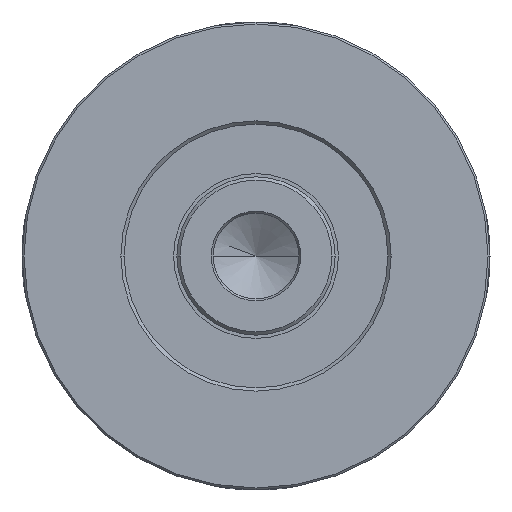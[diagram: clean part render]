
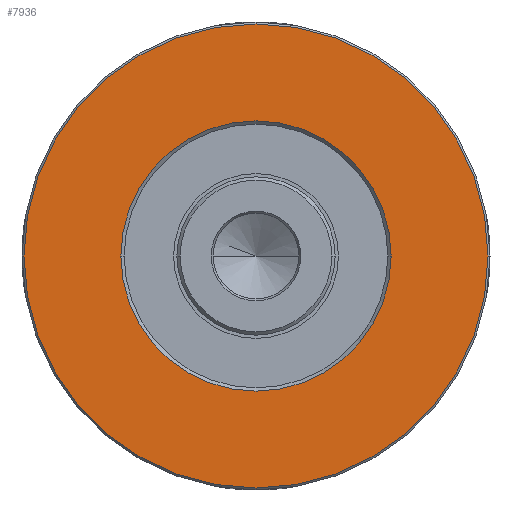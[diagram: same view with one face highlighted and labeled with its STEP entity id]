
A CAD part, left-side view. The second image highlights one B-rep face of the part: STEP entity #7936.
In plain terms, the highlighted planar face has unit normal (-1, 0, 0).
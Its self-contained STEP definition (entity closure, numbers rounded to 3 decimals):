
#7349=CARTESIAN_POINT('',(-4.,0.,0.));
#7350=DIRECTION('',(-1.,0.,0.));
#7351=DIRECTION('',(0.,1.,0.));
#7352=AXIS2_PLACEMENT_3D('',#7349,#7350,#7351);
#7357=CARTESIAN_POINT('',(-4.,0.,0.));
#7358=DIRECTION('',(1.,0.,0.));
#7359=DIRECTION('',(0.,1.,0.));
#7360=AXIS2_PLACEMENT_3D('',#7357,#7358,#7359);
#7365=CARTESIAN_POINT('',(-4.,0.,0.));
#7366=DIRECTION('',(1.,0.,0.));
#7367=DIRECTION('',(0.,1.,0.));
#7368=AXIS2_PLACEMENT_3D('',#7365,#7366,#7367);
#7387=CARTESIAN_POINT('',(-4.,0.,0.));
#7388=DIRECTION('',(-1.,0.,0.));
#7389=DIRECTION('',(0.,1.,0.));
#7390=AXIS2_PLACEMENT_3D('',#7387,#7388,#7389);
#7463=CARTESIAN_POINT('',(-4.,20.5,0.));
#7464=VERTEX_POINT('',#7463);
#7465=CARTESIAN_POINT('',(-4.,-20.5,0.));
#7466=VERTEX_POINT('',#7465);
#7467=CARTESIAN_POINT('',(-4.,35.2,0.));
#7468=VERTEX_POINT('',#7467);
#7469=CARTESIAN_POINT('',(-4.,-35.2,0.));
#7470=VERTEX_POINT('',#7469);
#7921=CARTESIAN_POINT('',(-4.,0.,0.));
#7922=DIRECTION('',(1.,0.,0.));
#7923=DIRECTION('',(0.,-1.,0.));
#7924=AXIS2_PLACEMENT_3D('',#7921,#7922,#7923);
#7925=PLANE('',#7924);
#7926=ORIENTED_EDGE('',*,*,#7900,.F.);
#7927=ORIENTED_EDGE('',*,*,#7916,.T.);
#7928=EDGE_LOOP('',(#7926,#7927));
#7929=FACE_OUTER_BOUND('',#7928,.F.);
#7931=ORIENTED_EDGE('',*,*,#7930,.F.);
#7933=ORIENTED_EDGE('',*,*,#7932,.T.);
#7934=EDGE_LOOP('',(#7931,#7933));
#7935=FACE_BOUND('',#7934,.F.);
#7353=CIRCLE('',#7352,35.2);
#7361=CIRCLE('',#7360,35.2);
#7369=CIRCLE('',#7368,20.5);
#7391=CIRCLE('',#7390,20.5);
#7900=EDGE_CURVE('',#7468,#7470,#7353,.T.);
#7916=EDGE_CURVE('',#7468,#7470,#7361,.T.);
#7930=EDGE_CURVE('',#7464,#7466,#7369,.T.);
#7932=EDGE_CURVE('',#7464,#7466,#7391,.T.);
#7936=ADVANCED_FACE('',(#7929,#7935),#7925,.F.);
